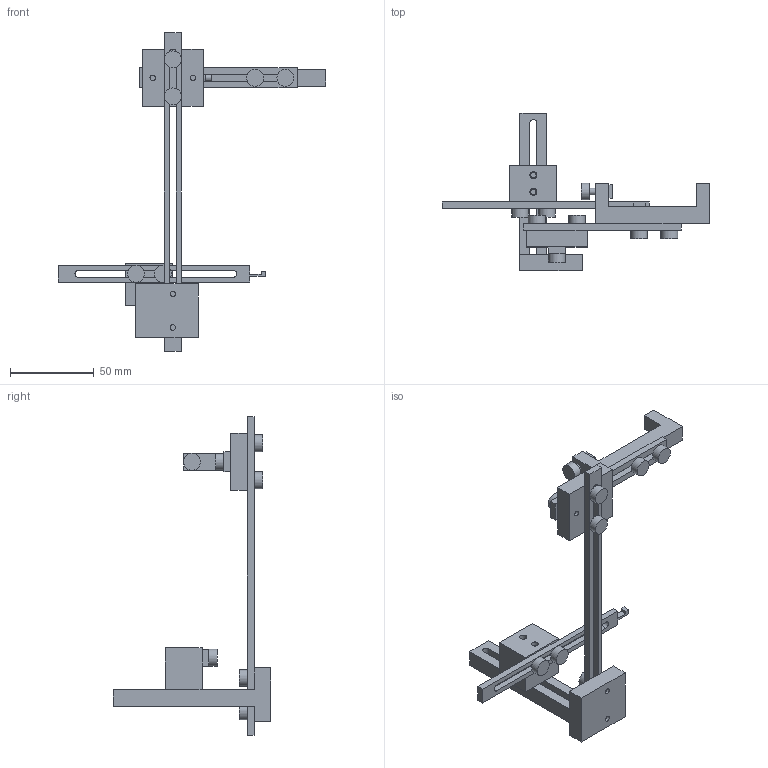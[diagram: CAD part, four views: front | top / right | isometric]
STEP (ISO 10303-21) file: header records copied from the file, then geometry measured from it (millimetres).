
FILE_DESCRIPTION(('Open CASCADE Model'),'2;1');
FILE_NAME('Open CASCADE Shape Model','2026-11-08T07:33:13',('Author'),( 'Open CASCADE'),'Open CASCADE STEP processor 7.8','Open CASCADE 7.8' ,'Unknown');
FILE_SCHEMA(('AUTOMOTIVE_DESIGN { 1 0 10303 214 1 1 1 1 }'));
Length unit declared in the file: millimetre
Products named in the file (22): L_with_M4x12_REFERENCE; 01_side_clamp_S50; 02_protective_pad; 03_horizontal_bar; 04_corner; 05_vertical_rail_190; 06_ribbed_depth_carriage; 07_cross_slide_carriage; 08_sliding_target_flag; M4x12_A_01; M4x12_A_02; M4x12_B_03; M4x12_B_04; M4x12_C_05; M4x12_C_06; M4x12_D_07; M4x12_D_08; M4x12_E_09; M4x12_E_10; M4x12_F_11; M4x12_F_12; M4x12_P_13
Assembly tree (21 placements, depth 2):
  L_with_M4x12_REFERENCE
    01_side_clamp_S50
    02_protective_pad
    03_horizontal_bar
    04_corner
    05_vertical_rail_190
    06_ribbed_depth_carriage
    07_cross_slide_carriage
    08_sliding_target_flag
    M4x12_A_01
    M4x12_A_02
    M4x12_B_03
    M4x12_B_04
    M4x12_C_05
    M4x12_C_06
    M4x12_D_07
    M4x12_D_08
    M4x12_E_09
    M4x12_E_10
    M4x12_F_11
    M4x12_F_12
    M4x12_P_13
Bounding box: 159.2 x 94 x 190 mm (x, y, z)
Volume: 70774.8 mm3; surface area: 40586.1 mm2
Topology: 21 solids, 21 shells, 172 faces, 342 edges, 228 vertices
Faces by surface type: plane 120, cylinder 52
Full cylindrical faces by diameter (mm): 3.242 x13, 4 x13, 4.2 x5, 10 x13
Entity records: 9683 total; most frequent: CARTESIAN_POINT 1838, DIRECTION 1453, LINE 818, VECTOR 818, ORIENTED_EDGE 684, PCURVE 684, DEFINITIONAL_REPRESENTATION 684, EDGE_CURVE 342
